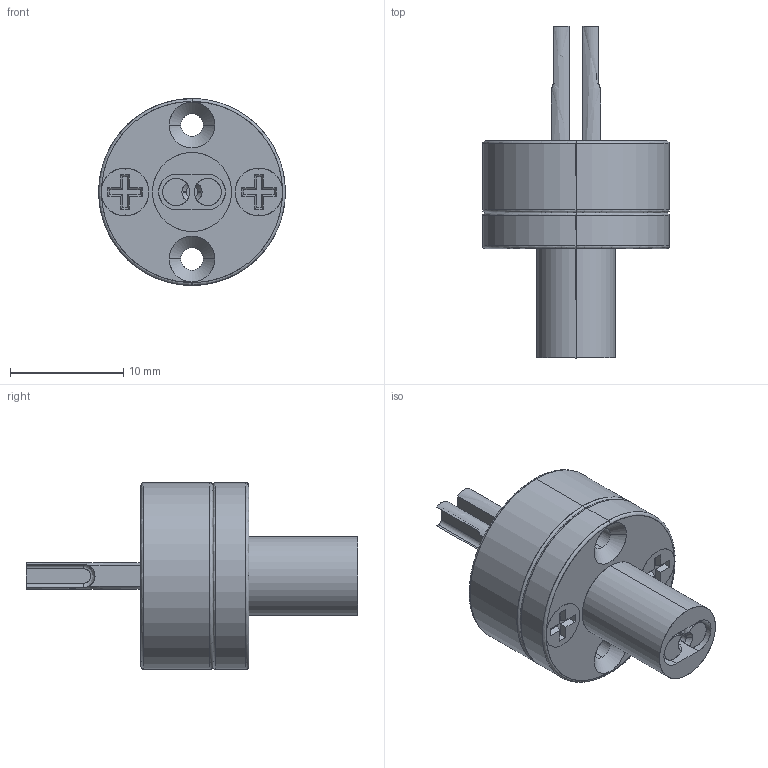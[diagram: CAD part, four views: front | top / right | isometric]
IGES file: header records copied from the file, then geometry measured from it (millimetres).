
Start section: SolidWorks IGES file using analytic representation for surfaces
Global section: file name: \\CODA-VM-SBS\RedirectedFolders\georged\My Documents\CODA CAD FILES\SPECIALIST TEST PRODUCTS\KELVIN TEST PINS & FIXTURE KITS\NEWHIGHPOWER\CAD\KWP400.IGS; native system: SolidWorks 2024; preprocessor: SolidWorks 2024; author: GeorgeD; date: 251002.102308; units: inch
Bounding box: 16.51 x 29.34 x 16.51 mm (x, y, z)
Surface area: 2523.2 mm2 (no closed solid volume)
Topology: 0 solids, 0 shells, 151 faces, 1922 edges, 1922 vertices
Faces by surface type: bspline 79, revolution 72
